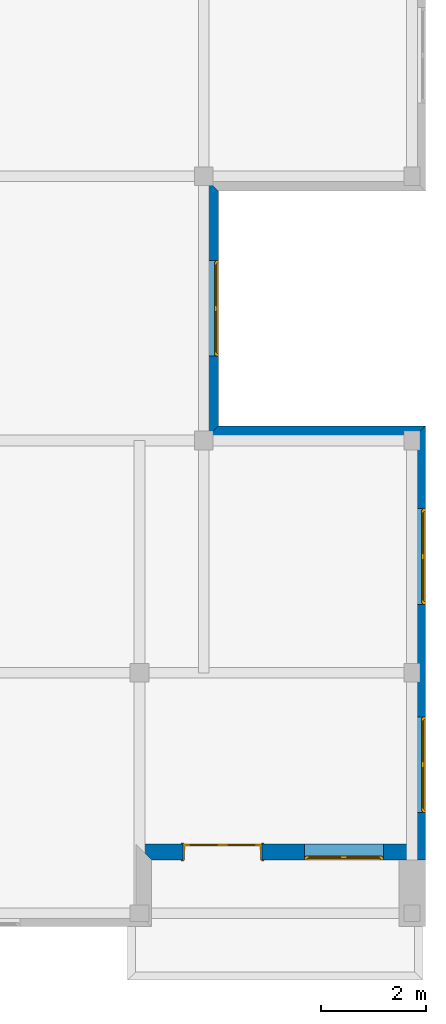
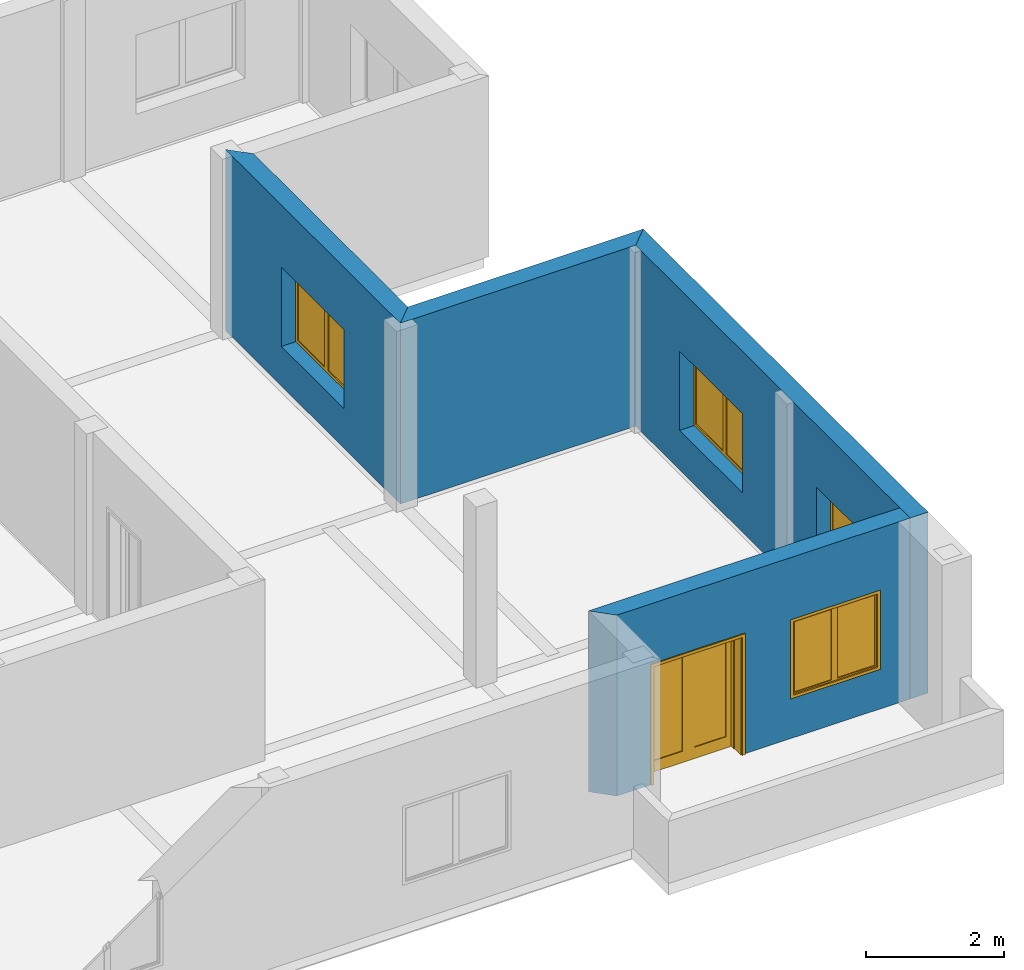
# One storey, part 5 of 6: 4 walls, 4 windows, 1 door, 5 openings.
"""IFC2X3 building model written with IfcOpenShell, lengths in millimetres."""

from ifc_helpers import new_model, entity, si_unit, converted_unit, direction, frame, origin_with_axes, origin_2d_with_axis, place, context, subcontext, project, spatial, polyline, rectangle, outline, extrude, faceted_brep, source, transform, mapped, material, layer, layer_set, layer_usage, type_object, element, fill, save


model = new_model("IFC2X3")

# Units and contexts
model_context = context("Model", 3, precision=1e-05, world=origin_with_axes(), true_north=direction((0.0, 1.0)))
body_context = subcontext(model_context, "Body", "Model", "MODEL_VIEW")
ifc_project = project(units=[si_unit("LENGTHUNIT", "METRE", prefix="MILLI"), si_unit("AREAUNIT", "SQUARE_METRE"), si_unit("VOLUMEUNIT", "CUBIC_METRE"), converted_unit("PLANEANGLEUNIT", "DEGREE", entity("IfcPlaneAngleMeasure", 0.017453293), si_unit("PLANEANGLEUNIT", "RADIAN"), dimensions=[0, 0, 0, 0, 0, 0, 0]), si_unit("SOLIDANGLEUNIT", "STERADIAN"), si_unit("MASSUNIT", "GRAM"), si_unit("TIMEUNIT", "SECOND"), si_unit("THERMODYNAMICTEMPERATUREUNIT", "DEGREE_CELSIUS"), si_unit("LUMINOUSINTENSITYUNIT", "LUMEN")], contexts=[model_context])

# Site, building, storey
site_placement = place(None, origin_with_axes())
site = spatial("IfcSite", under=ifc_project, at=site_placement, Name="Sitio", CompositionType="ELEMENT")
building_placement = place(site_placement, origin_with_axes())
building = spatial("IfcBuilding", under=site, at=building_placement, Name="Ejemplo_StruBIM", CompositionType="ELEMENT")
storey_placement = place(building_placement, frame((0.0, 0.0, 9601.2), z_axis=(0.0, 0.0, 1.0), x_axis=(1.0, 0.0, 0.0)))
storey = spatial("IfcBuildingStorey", under=building, at=storey_placement, Name="Third floor", CompositionType="ELEMENT", Elevation=9601.2)

# Wall
ifc_material_1 = material(Name="Bloque mampostería")
ifc_layer = layer(ifc_material_1, 300.0, ventilated="UNKNOWN")
ifc_layer_set = layer_set([ifc_layer], Name="Bloque mampostería 300")
ifc_layer_usage_1 = layer_usage(ifc_layer_set, "AXIS2", "POSITIVE", 0.0)
wall_type = type_object("IfcWallType", Name="Bloque mampostería 11 3/4\"", PredefinedType="NOTDEFINED")
wall_1_placement = place(storey_placement, frame((22809.2, 9271.0, 0.0), z_axis=(0.0, 0.0, 1.0), x_axis=(-1.0, 0.0, 0.0)))
element("IfcWallStandardCase", 1, at=wall_1_placement, inside=storey, type_object=wall_type, material=ifc_layer_usage_1, Name="Muro-012", context=body_context, shape_type="SweptSolid", body=[
    extrude(outline(polyline([(0.0, 0.0), (3937.0, 0.0), (4237.0, 300.0), (300.0, 300.0), (0.0, 0.0)])), origin_with_axes(), (0.0, 0.0, 1.0), 3200.4),
])

# Wall, opening, window
ifc_layer_usage_2 = layer_usage(ifc_layer_set, "AXIS2", "POSITIVE", 0.0)
wall_2_placement = place(storey_placement, frame((18872.2, 9271.0, 0.0), z_axis=(0.0, 0.0, 1.0), x_axis=(0.0, 1.0, 0.0)))
wall_2 = element("IfcWallStandardCase", 2, at=wall_2_placement, inside=storey, type_object=wall_type, material=ifc_layer_usage_2, Name="Muro-013", context=body_context, shape_type="SweptSolid", body=[
    extrude(outline(polyline([(0.0, 0.0), (4470.4, 0.0), (4770.4, 300.0), (-300.0, 300.0), (0.0, 0.0)])), origin_with_axes(), (0.0, 0.0, 1.0), 3200.4),
])
opening_1_placement = place(wall_2_placement, frame((2235.2, 0.0, 700.0), z_axis=(0.0, 0.0, 1.0), x_axis=(1.0, 0.0, 0.0)))
opening_1 = element("IfcOpeningElement", 3, at=opening_1_placement, cuts=wall_2, Name="V18", context=body_context, shape_type="SweptSolid", body=[
    extrude(rectangle(XDim=1820.0, YDim=1400.0, at=origin_2d_with_axis()), frame((0.0, 300.0, 700.0), z_axis=(0.0, -1.0, 0.0), x_axis=(1.0, 0.0, 0.0)), (0.0, 0.0, 1.0), 300.0),
])
ifc_material_2 = material(Name="Fondo")
window_style = type_object("IfcWindowStyle", Name="Ventana Doble Hoja 16", ConstructionType="NOTDEFINED", OperationType="DOUBLE_PANEL_HORIZONTAL", ParameterTakesPrecedence=False, Sizeable=False)
shared_shape_1 = source(origin_with_axes(), body_context, "Body", "Brep", [
    faceted_brep([(-885.0, -50.0, 1350.0), (-885.0, -25.0, 1350.0), (-860.0, -25.0, 1350.0), (-860.0, 0.0, 1350.0), (-910.0, 0.0, 1350.0), (-910.0, -50.0, 1350.0), (-885.0, -50.0, 50.0), (-885.0, -25.0, 50.0), (-860.0, -25.0, 50.0), (-860.0, 0.0, 50.0), (-910.0, 0.0, 50.0), (-910.0, -50.0, 50.0)], [[[0, 1, 2, 3, 4, 5]], [[1, 0, 6, 7]], [[8, 2, 1, 7]], [[2, 8, 9, 3]], [[4, 3, 9, 10]], [[5, 4, 10, 11]], [[6, 0, 5, 11]], [[7, 6, 11, 10, 9, 8]]]),
    faceted_brep([(860.0, -25.0, 1350.0), (885.0, -25.0, 1350.0), (885.0, -50.0, 1350.0), (910.0, -50.0, 1350.0), (910.0, 0.0, 1350.0), (860.0, 0.0, 1350.0), (860.0, -25.0, 50.0), (885.0, -25.0, 50.0), (885.0, -50.0, 50.0), (910.0, -50.0, 50.0), (910.0, 0.0, 50.0), (860.0, 0.0, 50.0)], [[[0, 1, 2, 3, 4, 5]], [[1, 0, 6, 7]], [[8, 2, 1, 7]], [[2, 8, 9, 3]], [[9, 10, 4, 3]], [[10, 11, 5, 4]], [[6, 0, 5, 11]], [[7, 6, 11, 10, 9, 8]]]),
    faceted_brep([(860.0, -25.0, 50.0), (885.0, -25.0, 50.0), (885.0, -50.0, 50.0), (910.0, -50.0, 50.0), (910.0, 0.0, 50.0), (860.0, 0.0, 50.0), (-860.0, -25.0, 50.0), (-885.0, -25.0, 50.0), (-885.0, -25.0, 25.0), (885.0, -25.0, 25.0), (885.0, -50.0, 25.0), (-885.0, -50.0, 25.0), (-885.0, -50.0, 50.0), (-910.0, -50.0, 50.0), (-910.0, -50.0, 0.0), (910.0, -50.0, 0.0), (910.0, 0.0, 0.0), (-910.0, 0.0, 50.0), (-860.0, 0.0, 50.0), (-910.0, 0.0, 0.0)], [[[0, 1, 2, 3, 4, 5]], [[1, 0, 6, 7, 8, 9]], [[10, 2, 1, 9]], [[11, 12, 13, 14, 15, 3, 2, 10]], [[15, 16, 4, 3]], [[17, 18, 5, 4, 16, 19]], [[6, 0, 5, 18]], [[7, 6, 18, 17, 13, 12]], [[7, 12, 11, 8]], [[11, 10, 9, 8]], [[13, 17, 19, 14]], [[14, 19, 16, 15]]]),
    faceted_brep([(-885.0, -50.0, 1350.0), (-885.0, -50.0, 1375.0), (885.0, -50.0, 1375.0), (885.0, -50.0, 1350.0), (910.0, -50.0, 1350.0), (910.0, -50.0, 1400.0), (-910.0, -50.0, 1400.0), (-910.0, -50.0, 1350.0), (-885.0, -25.0, 1350.0), (-885.0, -25.0, 1375.0), (885.0, -25.0, 1375.0), (885.0, -25.0, 1350.0), (860.0, -25.0, 1350.0), (860.0, 0.0, 1350.0), (910.0, 0.0, 1350.0), (910.0, 0.0, 1400.0), (-910.0, 0.0, 1400.0), (-910.0, 0.0, 1350.0), (-860.0, 0.0, 1350.0), (-860.0, -25.0, 1350.0)], [[[0, 1, 2, 3, 4, 5, 6, 7]], [[1, 0, 8, 9]], [[2, 1, 9, 10]], [[3, 2, 10, 11]], [[11, 12, 13, 14, 4, 3]], [[4, 14, 15, 5]], [[5, 15, 16, 6]], [[6, 16, 17, 7]], [[8, 0, 7, 17, 18, 19]], [[12, 11, 10, 9, 8, 19]], [[12, 19, 18, 13]], [[14, 13, 18, 17, 16, 15]]]),
    faceted_brep([(-835.0, -25.0, 1325.0), (-885.0, -25.0, 1325.0), (-885.0, -75.0, 1325.0), (-835.0, -75.0, 1325.0), (-835.0, -25.0, 75.0), (-885.0, -25.0, 75.0), (-885.0, -75.0, 75.0), (-835.0, -75.0, 75.0)], [[[0, 1, 2, 3]], [[0, 4, 5, 1]], [[1, 5, 6, 2]], [[3, 2, 6, 7]], [[4, 0, 3, 7]], [[5, 4, 7, 6]]]),
    faceted_brep([(-50.0, -25.0, 75.0), (0.0, -25.0, 75.0), (0.0, -75.0, 75.0), (-50.0, -75.0, 75.0), (-50.0, -25.0, 1325.0), (0.0, -25.0, 1325.0), (0.0, -75.0, 1325.0), (-50.0, -75.0, 1325.0)], [[[0, 1, 2, 3]], [[0, 4, 5, 1]], [[1, 5, 6, 2]], [[3, 2, 6, 7]], [[4, 0, 3, 7]], [[5, 4, 7, 6]]]),
    faceted_brep([(0.0, -25.0, 25.0), (0.0, -25.0, 75.0), (0.0, -75.0, 75.0), (0.0, -75.0, 25.0), (-885.0, -25.0, 25.0), (-885.0, -25.0, 75.0), (-835.0, -25.0, 75.0), (-50.0, -25.0, 75.0), (-50.0, -75.0, 75.0), (-835.0, -75.0, 75.0), (-885.0, -75.0, 75.0), (-885.0, -75.0, 25.0)], [[[0, 1, 2, 3]], [[0, 4, 5, 6, 7, 1]], [[1, 7, 8, 2]], [[3, 2, 8, 9, 10, 11]], [[4, 0, 3, 11]], [[5, 4, 11, 10]], [[6, 5, 10, 9]], [[7, 6, 9, 8]]]),
    faceted_brep([(-885.0, -25.0, 1375.0), (-885.0, -25.0, 1325.0), (-885.0, -75.0, 1325.0), (-885.0, -75.0, 1375.0), (0.0, -25.0, 1375.0), (0.0, -25.0, 1325.0), (-50.0, -25.0, 1325.0), (-835.0, -25.0, 1325.0), (-835.0, -75.0, 1325.0), (-50.0, -75.0, 1325.0), (0.0, -75.0, 1325.0), (0.0, -75.0, 1375.0)], [[[0, 1, 2, 3]], [[0, 4, 5, 6, 7, 1]], [[1, 7, 8, 2]], [[3, 2, 8, 9, 10, 11]], [[4, 0, 3, 11]], [[5, 4, 11, 10]], [[6, 5, 10, 9]], [[7, 6, 9, 8]]]),
    faceted_brep([(-835.0, -40.0, 75.0), (-50.0, -40.0, 75.0), (-50.0, -60.0, 75.0), (-835.0, -60.0, 75.0), (-835.0, -40.0, 1325.0), (-50.0, -40.0, 1325.0), (-50.0, -60.0, 1325.0), (-835.0, -60.0, 1325.0)], [[[0, 1, 2, 3]], [[0, 4, 5, 1]], [[1, 5, 6, 2]], [[3, 2, 6, 7]], [[4, 0, 3, 7]], [[5, 4, 7, 6]]]),
    faceted_brep([(50.0, -25.0, 1325.0), (0.0, -25.0, 1325.0), (0.0, -75.0, 1325.0), (50.0, -75.0, 1325.0), (50.0, -25.0, 75.0), (0.0, -25.0, 75.0), (0.0, -75.0, 75.0), (50.0, -75.0, 75.0)], [[[0, 1, 2, 3]], [[0, 4, 5, 1]], [[1, 5, 6, 2]], [[3, 2, 6, 7]], [[4, 0, 3, 7]], [[5, 4, 7, 6]]]),
    faceted_brep([(835.0, -25.0, 75.0), (885.0, -25.0, 75.0), (885.0, -75.0, 75.0), (835.0, -75.0, 75.0), (835.0, -25.0, 1325.0), (885.0, -25.0, 1325.0), (885.0, -75.0, 1325.0), (835.0, -75.0, 1325.0)], [[[0, 1, 2, 3]], [[0, 4, 5, 1]], [[1, 5, 6, 2]], [[3, 2, 6, 7]], [[4, 0, 3, 7]], [[5, 4, 7, 6]]]),
    faceted_brep([(885.0, -25.0, 25.0), (885.0, -25.0, 75.0), (885.0, -75.0, 75.0), (885.0, -75.0, 25.0), (0.0, -25.0, 25.0), (0.0, -25.0, 75.0), (50.0, -25.0, 75.0), (835.0, -25.0, 75.0), (835.0, -75.0, 75.0), (50.0, -75.0, 75.0), (0.0, -75.0, 75.0), (0.0, -75.0, 25.0)], [[[0, 1, 2, 3]], [[0, 4, 5, 6, 7, 1]], [[1, 7, 8, 2]], [[3, 2, 8, 9, 10, 11]], [[4, 0, 3, 11]], [[5, 4, 11, 10]], [[6, 5, 10, 9]], [[7, 6, 9, 8]]]),
    faceted_brep([(0.0, -25.0, 1375.0), (0.0, -25.0, 1325.0), (0.0, -75.0, 1325.0), (0.0, -75.0, 1375.0), (885.0, -25.0, 1375.0), (885.0, -25.0, 1325.0), (835.0, -25.0, 1325.0), (50.0, -25.0, 1325.0), (50.0, -75.0, 1325.0), (835.0, -75.0, 1325.0), (885.0, -75.0, 1325.0), (885.0, -75.0, 1375.0)], [[[0, 1, 2, 3]], [[0, 4, 5, 6, 7, 1]], [[1, 7, 8, 2]], [[3, 2, 8, 9, 10, 11]], [[4, 0, 3, 11]], [[5, 4, 11, 10]], [[6, 5, 10, 9]], [[7, 6, 9, 8]]]),
    faceted_brep([(50.0, -40.0, 75.0), (835.0, -40.0, 75.0), (835.0, -60.0, 75.0), (50.0, -60.0, 75.0), (50.0, -40.0, 1325.0), (835.0, -40.0, 1325.0), (835.0, -60.0, 1325.0), (50.0, -60.0, 1325.0)], [[[0, 1, 2, 3]], [[0, 4, 5, 1]], [[1, 5, 6, 2]], [[3, 2, 6, 7]], [[4, 0, 3, 7]], [[5, 4, 7, 6]]]),
])
window_1_placement = place(opening_1_placement, frame((910.0, 0.0, 0.0), z_axis=(0.0, 0.0, 1.0), x_axis=(-1.0, 0.0, 0.0)))
window_1 = element("IfcWindow", 4, at=window_1_placement, inside=storey, type_object=window_style, material=ifc_material_2, Name="V18", OverallHeight=1400.0, OverallWidth=1820.0, context=body_context, shape_type="MappedRepresentation", body=[
    mapped(shared_shape_1, transform((910.0, 0.0, 0.0))),
])
fill(opening_1, window_1)

# Wall, openings, windows
ifc_layer_usage_3 = layer_usage(ifc_layer_set, "AXIS2", "POSITIVE", 0.0)
wall_3_placement = place(storey_placement, frame((22809.2, 1016.0, 0.0), z_axis=(0.0, 0.0, 1.0), x_axis=(0.0, 1.0, 0.0)))
wall_3 = element("IfcWallStandardCase", 5, at=wall_3_placement, inside=storey, type_object=wall_type, material=ifc_layer_usage_3, Name="Muro-014", context=body_context, shape_type="SweptSolid", body=[
    extrude(outline(polyline([(0.0, 0.0), (8255.0, 0.0), (7955.0, 300.0), (0.0, 300.0), (0.0, 0.0)])), origin_with_axes(), (0.0, 0.0, 1.0), 3200.4),
])
opening_2_placement = place(wall_3_placement, frame((5770.2, 0.0, 700.0), z_axis=(0.0, 0.0, 1.0), x_axis=(1.0, 0.0, 0.0)))
opening_2 = element("IfcOpeningElement", 6, at=opening_2_placement, cuts=wall_3, Name="V14", context=body_context, shape_type="SweptSolid", body=[
    extrude(rectangle(XDim=1820.0, YDim=1400.0, at=origin_2d_with_axis()), frame((0.0, 300.0, 700.0), z_axis=(0.0, -1.0, 0.0), x_axis=(1.0, 0.0, 0.0)), (0.0, 0.0, 1.0), 300.0),
])
opening_3_placement = place(wall_3_placement, frame((1811.7, 0.0, 700.0), z_axis=(0.0, 0.0, 1.0), x_axis=(1.0, 0.0, 0.0)))
opening_3 = element("IfcOpeningElement", 7, at=opening_3_placement, cuts=wall_3, Name="V15", context=body_context, shape_type="SweptSolid", body=[
    extrude(rectangle(XDim=1820.0, YDim=1400.0, at=origin_2d_with_axis()), frame((0.0, 300.0, 700.0), z_axis=(0.0, -1.0, 0.0), x_axis=(1.0, 0.0, 0.0)), (0.0, 0.0, 1.0), 300.0),
])
window_2_placement = place(opening_2_placement, frame((910.0, 0.0, 0.0), z_axis=(0.0, 0.0, 1.0), x_axis=(-1.0, 0.0, 0.0)))
window_2 = element("IfcWindow", 8, at=window_2_placement, inside=storey, type_object=window_style, material=ifc_material_2, Name="V14", OverallHeight=1400.0, OverallWidth=1820.0, context=body_context, shape_type="MappedRepresentation", body=[
    mapped(shared_shape_1, transform((910.0, 0.0, 0.0))),
])
fill(opening_2, window_2)
window_3_placement = place(opening_3_placement, frame((910.0, 0.0, 0.0), z_axis=(0.0, 0.0, 1.0), x_axis=(-1.0, 0.0, 0.0)))
window_3 = element("IfcWindow", 9, at=window_3_placement, inside=storey, type_object=window_style, material=ifc_material_2, Name="V15", OverallHeight=1400.0, OverallWidth=1820.0, context=body_context, shape_type="MappedRepresentation", body=[
    mapped(shared_shape_1, transform((910.0, 0.0, 0.0))),
])
fill(opening_3, window_3)

# Wall, openings, door, window
ifc_layer_usage_4 = layer_usage(ifc_layer_set, "AXIS2", "POSITIVE", 0.0)
wall_4_placement = place(storey_placement, frame((17602.2, 1016.0, 0.0), z_axis=(0.0, 0.0, 1.0), x_axis=(1.0, 0.0, 0.0)))
wall_4 = element("IfcWallStandardCase", 10, at=wall_4_placement, inside=storey, type_object=wall_type, material=ifc_layer_usage_4, Name="Muro-015", context=body_context, shape_type="SweptSolid", body=[
    extrude(outline(polyline([(0.0, 0.0), (4907.0, 0.0), (4907.0, 300.0), (-300.0, 300.0), (0.0, 0.0)])), origin_with_axes(), (0.0, 0.0, 1.0), 3200.4),
])
opening_4_placement = place(wall_4_placement, frame((3657.6, 0.0, 700.0), z_axis=(0.0, 0.0, 1.0), x_axis=(1.0, 0.0, 0.0)))
opening_4 = element("IfcOpeningElement", 11, at=opening_4_placement, cuts=wall_4, Name="V02", context=body_context, shape_type="SweptSolid", body=[
    extrude(rectangle(XDim=1500.0, YDim=1400.0, at=origin_2d_with_axis()), frame((0.0, 300.0, 700.0), z_axis=(0.0, -1.0, 0.0), x_axis=(1.0, 0.0, 0.0)), (0.0, 0.0, 1.0), 300.0),
])
opening_5_placement = place(wall_4_placement, frame((1350.0, 0.0, 0.0), z_axis=(0.0, 0.0, 1.0), x_axis=(1.0, 0.0, 0.0)))
opening_5 = element("IfcOpeningElement", 12, at=opening_5_placement, cuts=wall_4, Name="P05", context=body_context, shape_type="SweptSolid", body=[
    extrude(rectangle(XDim=1500.0, YDim=2100.0, at=origin_2d_with_axis()), frame((0.0, 0.0, 1050.0), z_axis=(0.0, -1.0, 0.0), x_axis=(1.0, 0.0, 0.0)), (0.0, 0.0, -1.0), 300.0),
    extrude(rectangle(XDim=1574.0, YDim=2137.0, at=origin_2d_with_axis()), frame((0.0, 0.0, 1068.5), z_axis=(0.0, -1.0, 0.0), x_axis=(1.0, 0.0, 0.0)), (0.0, 0.0, 1.0), 300.0),
    extrude(rectangle(XDim=1574.0, YDim=2137.0, at=origin_2d_with_axis()), frame((0.0, 300.0, 1068.5), z_axis=(0.0, 1.0, 0.0), x_axis=(1.0, 0.0, 0.0)), (0.0, 0.0, 1.0), 300.0),
])
door_style = type_object("IfcDoorStyle", Name="Puerta Doble 16", ConstructionType="NOTDEFINED", OperationType="SINGLE_SWING_LEFT", ParameterTakesPrecedence=False, Sizeable=False)
shared_shape_2 = source(origin_with_axes(), body_context, "Body", "Brep", [
    faceted_brep([(750.0, -115.0, 0.0), (750.0, -300.0, 0.0), (725.0, -300.0, 0.0), (725.0, -115.0, 0.0), (750.0, -115.0, 2100.0), (750.0, -300.0, 2100.0), (725.0, -300.0, 2075.0), (725.0, -115.0, 2075.0)], [[[0, 1, 2, 3]], [[4, 5, 1, 0]], [[1, 5, 6, 2]], [[3, 2, 6, 7]], [[0, 3, 7, 4]], [[7, 6, 5, 4]]]),
    faceted_brep([(-750.0, -115.0, 2100.0), (-750.0, -300.0, 2100.0), (-725.0, -300.0, 2075.0), (-725.0, -115.0, 2075.0), (-750.0, -115.0, 0.0), (-750.0, -300.0, 0.0), (-725.0, -300.0, 0.0), (-725.0, -115.0, 0.0)], [[[0, 1, 2, 3]], [[4, 5, 1, 0]], [[1, 5, 6, 2]], [[3, 2, 6, 7]], [[0, 3, 7, 4]], [[7, 6, 5, 4]]]),
    faceted_brep([(725.0, -115.0, 2075.0), (725.0, -300.0, 2075.0), (-725.0, -300.0, 2075.0), (-725.0, -115.0, 2075.0), (750.0, -115.0, 2100.0), (750.0, -300.0, 2100.0), (-750.0, -300.0, 2100.0), (-750.0, -115.0, 2100.0)], [[[0, 1, 2, 3]], [[4, 5, 1, 0]], [[1, 5, 6, 2]], [[3, 2, 6, 7]], [[0, 3, 7, 4]], [[7, 6, 5, 4]]]),
    faceted_brep([(787.0, -319.0, 0.0), (737.0, -319.0, 0.0), (737.0, -300.0, 0.0), (787.0, -300.0, 0.0), (787.0, -319.0, 2137.0), (737.0, -319.0, 2087.0), (737.0, -300.0, 2087.0), (787.0, -300.0, 2137.0)], [[[0, 1, 2, 3]], [[0, 4, 5, 1]], [[1, 5, 6, 2]], [[3, 2, 6, 7]], [[4, 0, 3, 7]], [[5, 4, 7, 6]]]),
    faceted_brep([(-787.0, -319.0, 2137.0), (-737.0, -319.0, 2087.0), (-737.0, -300.0, 2087.0), (-787.0, -300.0, 2137.0), (-787.0, -319.0, 0.0), (-737.0, -319.0, 0.0), (-737.0, -300.0, 0.0), (-787.0, -300.0, 0.0)], [[[0, 1, 2, 3]], [[0, 4, 5, 1]], [[1, 5, 6, 2]], [[3, 2, 6, 7]], [[4, 0, 3, 7]], [[5, 4, 7, 6]]]),
    faceted_brep([(787.0, -319.0, 2137.0), (737.0, -319.0, 2087.0), (737.0, -300.0, 2087.0), (787.0, -300.0, 2137.0), (-787.0, -319.0, 2137.0), (-737.0, -319.0, 2087.0), (-737.0, -300.0, 2087.0), (-787.0, -300.0, 2137.0)], [[[0, 1, 2, 3]], [[0, 4, 5, 1]], [[1, 5, 6, 2]], [[3, 2, 6, 7]], [[4, 0, 3, 7]], [[5, 4, 7, 6]]]),
    faceted_brep([(787.0, 19.0, 0.0), (787.0, 0.0, 0.0), (737.0, 0.0, 0.0), (737.0, 19.0, 0.0), (787.0, 19.0, 2137.0), (787.0, 0.0, 2137.0), (737.0, 0.0, 2087.0), (737.0, 19.0, 2087.0)], [[[0, 1, 2, 3]], [[4, 5, 1, 0]], [[1, 5, 6, 2]], [[3, 2, 6, 7]], [[0, 3, 7, 4]], [[7, 6, 5, 4]]]),
    faceted_brep([(-787.0, 19.0, 2137.0), (-787.0, 0.0, 2137.0), (-737.0, 0.0, 2087.0), (-737.0, 19.0, 2087.0), (-787.0, 19.0, 0.0), (-787.0, 0.0, 0.0), (-737.0, 0.0, 0.0), (-737.0, 19.0, 0.0)], [[[0, 1, 2, 3]], [[4, 5, 1, 0]], [[1, 5, 6, 2]], [[3, 2, 6, 7]], [[0, 3, 7, 4]], [[7, 6, 5, 4]]]),
    faceted_brep([(787.0, 19.0, 2137.0), (787.0, 0.0, 2137.0), (737.0, 0.0, 2087.0), (737.0, 19.0, 2087.0), (-787.0, 19.0, 2137.0), (-787.0, 0.0, 2137.0), (-737.0, 0.0, 2087.0), (-737.0, 19.0, 2087.0)], [[[0, 1, 2, 3]], [[4, 5, 1, 0]], [[1, 5, 6, 2]], [[3, 2, 6, 7]], [[0, 3, 7, 4]], [[7, 6, 5, 4]]]),
    faceted_brep([(710.0, -40.0, 0.0), (710.0, -115.0, 0.0), (710.0, -115.0, 2060.0), (710.0, -40.0, 2060.0), (722.0, -40.0, 0.0), (722.0, 2.2351741e-07, 0.0), (750.0, 2.2351741e-07, -3.8951635e-07), (750.0, -115.0, 0.0), (750.0, -115.0, 2060.0), (722.0, -40.0, 2060.0), (750.0, 2.2351741e-07, 2060.0), (722.0, 2.2351741e-07, 2060.0)], [[[0, 1, 2, 3]], [[4, 5, 6, 7, 1, 0]], [[8, 2, 1, 7]], [[9, 3, 2, 8, 10, 11]], [[9, 4, 0, 3]], [[11, 5, 4, 9]], [[11, 10, 6, 5]], [[7, 6, 10, 8]]]),
    faceted_brep([(-722.0, -40.0, 2060.0), (-722.0, 2.2351741e-07, 2060.0), (-750.0, 2.2351741e-07, 2060.0), (-750.0, -115.0, 2060.0), (-710.0, -115.0, 2060.0), (-710.0, -40.0, 2060.0), (-722.0, -40.0, 0.0), (-722.0, 2.2351741e-07, 0.0), (-750.0, 2.2351741e-07, -3.8951635e-07), (-750.0, -115.0, 0.0), (-710.0, -115.0, 0.0), (-710.0, -40.0, 0.0)], [[[0, 1, 2, 3, 4, 5]], [[0, 6, 7, 1]], [[7, 8, 2, 1]], [[3, 2, 8, 9]], [[10, 4, 3, 9]], [[5, 4, 10, 11]], [[5, 11, 6, 0]], [[6, 11, 10, 9, 8, 7]]]),
    faceted_brep([(722.0, 2.2351741e-07, 2072.0), (-722.0, 2.2351741e-07, 2072.0), (-722.0, 2.2351741e-07, 2060.0), (-750.0, 2.2351741e-07, 2060.0), (-750.0, 2.2351741e-07, 2100.0), (750.0, 2.2351741e-07, 2100.0), (750.0, 2.2351741e-07, 2060.0), (722.0, 2.2351741e-07, 2060.0), (722.0, -40.0, 2072.0), (-722.0, -40.0, 2072.0), (-722.0, -40.0, 2060.0), (-710.0, -40.0, 2060.0), (-710.0, -115.0, 2060.0), (-750.0, -115.0, 2060.0), (-750.0, -115.0, 2100.0), (750.0, -115.0, 2100.0), (750.0, -115.0, 2060.0), (722.0, -40.0, 2060.0), (710.0, -115.0, 2060.0), (710.0, -40.0, 2060.0)], [[[0, 1, 2, 3, 4, 5, 6, 7]], [[0, 8, 9, 1]], [[1, 9, 10, 2]], [[10, 11, 12, 13, 3, 2]], [[14, 4, 3, 13]], [[15, 5, 4, 14]], [[16, 6, 5, 15]], [[17, 7, 6, 16, 18, 19]], [[7, 17, 8, 0]], [[10, 9, 8, 17, 19, 11]], [[19, 18, 12, 11]], [[14, 13, 12, 18, 16, 15]]]),
    faceted_brep([(-722.0, 0.0, 200.0), (-622.0, 0.0, 200.0), (-622.0, -40.0, 200.0), (-722.0, -40.0, 200.0), (-722.0, 0.0, 1972.0), (-622.0, 0.0, 1972.0), (-622.0, -40.0, 1972.0), (-722.0, -40.0, 1972.0)], [[[0, 1, 2, 3]], [[0, 4, 5, 1]], [[1, 5, 6, 2]], [[3, 2, 6, 7]], [[4, 0, 3, 7]], [[5, 4, 7, 6]]]),
    faceted_brep([(0.0, 0.0, 200.0), (0.0, 0.0, 1972.0), (0.0, -40.0, 1972.0), (0.0, -40.0, 200.0), (-100.0, 0.0, 200.0), (-100.0, 0.0, 1972.0), (-100.0, -40.0, 1972.0), (-100.0, -40.0, 200.0)], [[[0, 1, 2, 3]], [[0, 4, 5, 1]], [[1, 5, 6, 2]], [[3, 2, 6, 7]], [[4, 0, 3, 7]], [[5, 4, 7, 6]]]),
    faceted_brep([(-722.0, 0.0, 0.0), (0.0, 0.0, 0.0), (0.0, -40.0, 0.0), (-722.0, -40.0, 0.0), (-722.0, 0.0, 200.0), (-622.0, 0.0, 200.0), (-100.0, 0.0, 200.0), (0.0, 0.0, 200.0), (0.0, -40.0, 200.0), (-100.0, -40.0, 200.0), (-622.0, -40.0, 200.0), (-722.0, -40.0, 200.0)], [[[0, 1, 2, 3]], [[0, 4, 5, 6, 7, 1]], [[1, 7, 8, 2]], [[3, 2, 8, 9, 10, 11]], [[4, 0, 3, 11]], [[5, 4, 11, 10]], [[6, 5, 10, 9]], [[7, 6, 9, 8]]]),
    faceted_brep([(-722.0, 0.0, 2072.0), (-722.0, 0.0, 1972.0), (-722.0, -40.0, 1972.0), (-722.0, -40.0, 2072.0), (0.0, 0.0, 2072.0), (0.0, 0.0, 1972.0), (-100.0, 0.0, 1972.0), (-622.0, 0.0, 1972.0), (-622.0, -40.0, 1972.0), (-100.0, -40.0, 1972.0), (0.0, -40.0, 1972.0), (0.0, -40.0, 2072.0)], [[[0, 1, 2, 3]], [[0, 4, 5, 6, 7, 1]], [[1, 7, 8, 2]], [[3, 2, 8, 9, 10, 11]], [[4, 0, 3, 11]], [[5, 4, 11, 10]], [[6, 5, 10, 9]], [[7, 6, 9, 8]]]),
    faceted_brep([(-622.0, -14.0, 200.0), (-100.0, -14.0, 200.0), (-100.0, -26.0, 200.0), (-622.0, -26.0, 200.0), (-622.0, -14.0, 1972.0), (-100.0, -14.0, 1972.0), (-100.0, -26.0, 1972.0), (-622.0, -26.0, 1972.0)], [[[0, 1, 2, 3]], [[0, 4, 5, 1]], [[1, 5, 6, 2]], [[3, 2, 6, 7]], [[4, 0, 3, 7]], [[5, 4, 7, 6]]]),
    faceted_brep([(722.0, 0.0, 200.0), (722.0, -40.0, 200.0), (622.0, -40.0, 200.0), (622.0, 0.0, 200.0), (722.0, 0.0, 1972.0), (722.0, -40.0, 1972.0), (622.0, -40.0, 1972.0), (622.0, 0.0, 1972.0)], [[[0, 1, 2, 3]], [[4, 5, 1, 0]], [[1, 5, 6, 2]], [[3, 2, 6, 7]], [[0, 3, 7, 4]], [[7, 6, 5, 4]]]),
    faceted_brep([(0.0, 0.0, 200.0), (0.0, -40.0, 200.0), (0.0, -40.0, 1972.0), (0.0, 0.0, 1972.0), (100.0, 0.0, 200.0), (100.0, -40.0, 200.0), (100.0, -40.0, 1972.0), (100.0, 0.0, 1972.0)], [[[0, 1, 2, 3]], [[4, 5, 1, 0]], [[1, 5, 6, 2]], [[3, 2, 6, 7]], [[0, 3, 7, 4]], [[7, 6, 5, 4]]]),
    faceted_brep([(722.0, 0.0, 0.0), (722.0, -40.0, 0.0), (0.0, -40.0, 0.0), (0.0, 0.0, 0.0), (722.0, 0.0, 200.0), (722.0, -40.0, 200.0), (622.0, -40.0, 200.0), (100.0, -40.0, 200.0), (0.0, -40.0, 200.0), (0.0, 0.0, 200.0), (100.0, 0.0, 200.0), (622.0, 0.0, 200.0)], [[[0, 1, 2, 3]], [[4, 5, 1, 0]], [[1, 5, 6, 7, 8, 2]], [[3, 2, 8, 9]], [[0, 3, 9, 10, 11, 4]], [[11, 6, 5, 4]], [[10, 7, 6, 11]], [[9, 8, 7, 10]]]),
    faceted_brep([(722.0, 0.0, 2072.0), (722.0, -40.0, 2072.0), (722.0, -40.0, 1972.0), (722.0, 0.0, 1972.0), (0.0, 0.0, 2072.0), (0.0, -40.0, 2072.0), (0.0, -40.0, 1972.0), (100.0, -40.0, 1972.0), (622.0, -40.0, 1972.0), (622.0, 0.0, 1972.0), (100.0, 0.0, 1972.0), (0.0, 0.0, 1972.0)], [[[0, 1, 2, 3]], [[4, 5, 1, 0]], [[1, 5, 6, 7, 8, 2]], [[3, 2, 8, 9]], [[0, 3, 9, 10, 11, 4]], [[11, 6, 5, 4]], [[10, 7, 6, 11]], [[9, 8, 7, 10]]]),
    faceted_brep([(622.0, -14.0, 200.0), (622.0, -26.0, 200.0), (100.0, -26.0, 200.0), (100.0, -14.0, 200.0), (622.0, -14.0, 1972.0), (622.0, -26.0, 1972.0), (100.0, -26.0, 1972.0), (100.0, -14.0, 1972.0)], [[[0, 1, 2, 3]], [[4, 5, 1, 0]], [[1, 5, 6, 2]], [[3, 2, 6, 7]], [[0, 3, 7, 4]], [[7, 6, 5, 4]]]),
])
door_placement = place(opening_5_placement, frame((-750.0, 0.0, 0.0), z_axis=(0.0, 0.0, 1.0), x_axis=(1.0, 0.0, 0.0)))
door = element("IfcDoor", 13, at=door_placement, inside=storey, type_object=door_style, material=ifc_material_2, Name="P05", OverallHeight=2100.0, OverallWidth=1500.0, context=body_context, shape_type="MappedRepresentation", body=[
    mapped(shared_shape_2, transform((750.0, 300.0, 0.0))),
])
fill(opening_5, door)
shared_shape_3 = source(origin_with_axes(), body_context, "Body", "Brep", [
    faceted_brep([(-725.0, -50.0, 1350.0), (-725.0, -25.0, 1350.0), (-700.0, -25.0, 1350.0), (-700.0, 0.0, 1350.0), (-750.0, 0.0, 1350.0), (-750.0, -50.0, 1350.0), (-725.0, -50.0, 50.0), (-725.0, -25.0, 50.0), (-700.0, -25.0, 50.0), (-700.0, 0.0, 50.0), (-750.0, 0.0, 50.0), (-750.0, -50.0, 50.0)], [[[0, 1, 2, 3, 4, 5]], [[1, 0, 6, 7]], [[8, 2, 1, 7]], [[2, 8, 9, 3]], [[4, 3, 9, 10]], [[5, 4, 10, 11]], [[6, 0, 5, 11]], [[7, 6, 11, 10, 9, 8]]]),
    faceted_brep([(700.0, -25.0, 1350.0), (725.0, -25.0, 1350.0), (725.0, -50.0, 1350.0), (750.0, -50.0, 1350.0), (750.0, 0.0, 1350.0), (700.0, 0.0, 1350.0), (700.0, -25.0, 50.0), (725.0, -25.0, 50.0), (725.0, -50.0, 50.0), (750.0, -50.0, 50.0), (750.0, 0.0, 50.0), (700.0, 0.0, 50.0)], [[[0, 1, 2, 3, 4, 5]], [[1, 0, 6, 7]], [[8, 2, 1, 7]], [[2, 8, 9, 3]], [[9, 10, 4, 3]], [[10, 11, 5, 4]], [[6, 0, 5, 11]], [[7, 6, 11, 10, 9, 8]]]),
    faceted_brep([(700.0, -25.0, 50.0), (725.0, -25.0, 50.0), (725.0, -50.0, 50.0), (750.0, -50.0, 50.0), (750.0, 0.0, 50.0), (700.0, 0.0, 50.0), (-700.0, -25.0, 50.0), (-725.0, -25.0, 50.0), (-725.0, -25.0, 25.0), (725.0, -25.0, 25.0), (725.0, -50.0, 25.0), (-725.0, -50.0, 25.0), (-725.0, -50.0, 50.0), (-750.0, -50.0, 50.0), (-750.0, -50.0, 0.0), (750.0, -50.0, 0.0), (750.0, 0.0, 0.0), (-750.0, 0.0, 50.0), (-700.0, 0.0, 50.0), (-750.0, 0.0, 0.0)], [[[0, 1, 2, 3, 4, 5]], [[1, 0, 6, 7, 8, 9]], [[10, 2, 1, 9]], [[11, 12, 13, 14, 15, 3, 2, 10]], [[15, 16, 4, 3]], [[17, 18, 5, 4, 16, 19]], [[6, 0, 5, 18]], [[7, 6, 18, 17, 13, 12]], [[7, 12, 11, 8]], [[11, 10, 9, 8]], [[13, 17, 19, 14]], [[14, 19, 16, 15]]]),
    faceted_brep([(-725.0, -50.0, 1350.0), (-725.0, -50.0, 1375.0), (725.0, -50.0, 1375.0), (725.0, -50.0, 1350.0), (750.0, -50.0, 1350.0), (750.0, -50.0, 1400.0), (-750.0, -50.0, 1400.0), (-750.0, -50.0, 1350.0), (-725.0, -25.0, 1350.0), (-725.0, -25.0, 1375.0), (725.0, -25.0, 1375.0), (725.0, -25.0, 1350.0), (700.0, -25.0, 1350.0), (700.0, 0.0, 1350.0), (750.0, 0.0, 1350.0), (750.0, 0.0, 1400.0), (-750.0, 0.0, 1400.0), (-750.0, 0.0, 1350.0), (-700.0, 0.0, 1350.0), (-700.0, -25.0, 1350.0)], [[[0, 1, 2, 3, 4, 5, 6, 7]], [[1, 0, 8, 9]], [[2, 1, 9, 10]], [[3, 2, 10, 11]], [[11, 12, 13, 14, 4, 3]], [[4, 14, 15, 5]], [[5, 15, 16, 6]], [[6, 16, 17, 7]], [[8, 0, 7, 17, 18, 19]], [[12, 11, 10, 9, 8, 19]], [[12, 19, 18, 13]], [[14, 13, 18, 17, 16, 15]]]),
    faceted_brep([(-675.0, -25.0, 1325.0), (-725.0, -25.0, 1325.0), (-725.0, -75.0, 1325.0), (-675.0, -75.0, 1325.0), (-675.0, -25.0, 75.0), (-725.0, -25.0, 75.0), (-725.0, -75.0, 75.0), (-675.0, -75.0, 75.0)], [[[0, 1, 2, 3]], [[0, 4, 5, 1]], [[1, 5, 6, 2]], [[3, 2, 6, 7]], [[4, 0, 3, 7]], [[5, 4, 7, 6]]]),
    faceted_brep([(-50.0, -25.0, 75.0), (0.0, -25.0, 75.0), (0.0, -75.0, 75.0), (-50.0, -75.0, 75.0), (-50.0, -25.0, 1325.0), (0.0, -25.0, 1325.0), (0.0, -75.0, 1325.0), (-50.0, -75.0, 1325.0)], [[[0, 1, 2, 3]], [[0, 4, 5, 1]], [[1, 5, 6, 2]], [[3, 2, 6, 7]], [[4, 0, 3, 7]], [[5, 4, 7, 6]]]),
    faceted_brep([(0.0, -25.0, 25.0), (0.0, -25.0, 75.0), (0.0, -75.0, 75.0), (0.0, -75.0, 25.0), (-725.0, -25.0, 25.0), (-725.0, -25.0, 75.0), (-675.0, -25.0, 75.0), (-50.0, -25.0, 75.0), (-50.0, -75.0, 75.0), (-675.0, -75.0, 75.0), (-725.0, -75.0, 75.0), (-725.0, -75.0, 25.0)], [[[0, 1, 2, 3]], [[0, 4, 5, 6, 7, 1]], [[1, 7, 8, 2]], [[3, 2, 8, 9, 10, 11]], [[4, 0, 3, 11]], [[5, 4, 11, 10]], [[6, 5, 10, 9]], [[7, 6, 9, 8]]]),
    faceted_brep([(-725.0, -25.0, 1375.0), (-725.0, -25.0, 1325.0), (-725.0, -75.0, 1325.0), (-725.0, -75.0, 1375.0), (0.0, -25.0, 1375.0), (0.0, -25.0, 1325.0), (-50.0, -25.0, 1325.0), (-675.0, -25.0, 1325.0), (-675.0, -75.0, 1325.0), (-50.0, -75.0, 1325.0), (0.0, -75.0, 1325.0), (0.0, -75.0, 1375.0)], [[[0, 1, 2, 3]], [[0, 4, 5, 6, 7, 1]], [[1, 7, 8, 2]], [[3, 2, 8, 9, 10, 11]], [[4, 0, 3, 11]], [[5, 4, 11, 10]], [[6, 5, 10, 9]], [[7, 6, 9, 8]]]),
    faceted_brep([(-675.0, -40.0, 75.0), (-50.0, -40.0, 75.0), (-50.0, -60.0, 75.0), (-675.0, -60.0, 75.0), (-675.0, -40.0, 1325.0), (-50.0, -40.0, 1325.0), (-50.0, -60.0, 1325.0), (-675.0, -60.0, 1325.0)], [[[0, 1, 2, 3]], [[0, 4, 5, 1]], [[1, 5, 6, 2]], [[3, 2, 6, 7]], [[4, 0, 3, 7]], [[5, 4, 7, 6]]]),
    faceted_brep([(50.0, -25.0, 1325.0), (0.0, -25.0, 1325.0), (0.0, -75.0, 1325.0), (50.0, -75.0, 1325.0), (50.0, -25.0, 75.0), (0.0, -25.0, 75.0), (0.0, -75.0, 75.0), (50.0, -75.0, 75.0)], [[[0, 1, 2, 3]], [[0, 4, 5, 1]], [[1, 5, 6, 2]], [[3, 2, 6, 7]], [[4, 0, 3, 7]], [[5, 4, 7, 6]]]),
    faceted_brep([(675.0, -25.0, 75.0), (725.0, -25.0, 75.0), (725.0, -75.0, 75.0), (675.0, -75.0, 75.0), (675.0, -25.0, 1325.0), (725.0, -25.0, 1325.0), (725.0, -75.0, 1325.0), (675.0, -75.0, 1325.0)], [[[0, 1, 2, 3]], [[0, 4, 5, 1]], [[1, 5, 6, 2]], [[3, 2, 6, 7]], [[4, 0, 3, 7]], [[5, 4, 7, 6]]]),
    faceted_brep([(725.0, -25.0, 25.0), (725.0, -25.0, 75.0), (725.0, -75.0, 75.0), (725.0, -75.0, 25.0), (0.0, -25.0, 25.0), (0.0, -25.0, 75.0), (50.0, -25.0, 75.0), (675.0, -25.0, 75.0), (675.0, -75.0, 75.0), (50.0, -75.0, 75.0), (0.0, -75.0, 75.0), (0.0, -75.0, 25.0)], [[[0, 1, 2, 3]], [[0, 4, 5, 6, 7, 1]], [[1, 7, 8, 2]], [[3, 2, 8, 9, 10, 11]], [[4, 0, 3, 11]], [[5, 4, 11, 10]], [[6, 5, 10, 9]], [[7, 6, 9, 8]]]),
    faceted_brep([(0.0, -25.0, 1375.0), (0.0, -25.0, 1325.0), (0.0, -75.0, 1325.0), (0.0, -75.0, 1375.0), (725.0, -25.0, 1375.0), (725.0, -25.0, 1325.0), (675.0, -25.0, 1325.0), (50.0, -25.0, 1325.0), (50.0, -75.0, 1325.0), (675.0, -75.0, 1325.0), (725.0, -75.0, 1325.0), (725.0, -75.0, 1375.0)], [[[0, 1, 2, 3]], [[0, 4, 5, 6, 7, 1]], [[1, 7, 8, 2]], [[3, 2, 8, 9, 10, 11]], [[4, 0, 3, 11]], [[5, 4, 11, 10]], [[6, 5, 10, 9]], [[7, 6, 9, 8]]]),
    faceted_brep([(50.0, -40.0, 75.0), (675.0, -40.0, 75.0), (675.0, -60.0, 75.0), (50.0, -60.0, 75.0), (50.0, -40.0, 1325.0), (675.0, -40.0, 1325.0), (675.0, -60.0, 1325.0), (50.0, -60.0, 1325.0)], [[[0, 1, 2, 3]], [[0, 4, 5, 1]], [[1, 5, 6, 2]], [[3, 2, 6, 7]], [[4, 0, 3, 7]], [[5, 4, 7, 6]]]),
])
window_4_placement = place(opening_4_placement, frame((750.0, 0.0, 0.0), z_axis=(0.0, 0.0, 1.0), x_axis=(-1.0, 0.0, 0.0)))
window_4 = element("IfcWindow", 14, at=window_4_placement, inside=storey, type_object=window_style, material=ifc_material_2, Name="V02", OverallHeight=1400.0, OverallWidth=1500.0, context=body_context, shape_type="MappedRepresentation", body=[
    mapped(shared_shape_3, transform((750.0, 0.0, 0.0))),
])
fill(opening_4, window_4)

save(model, "model.ifc")
